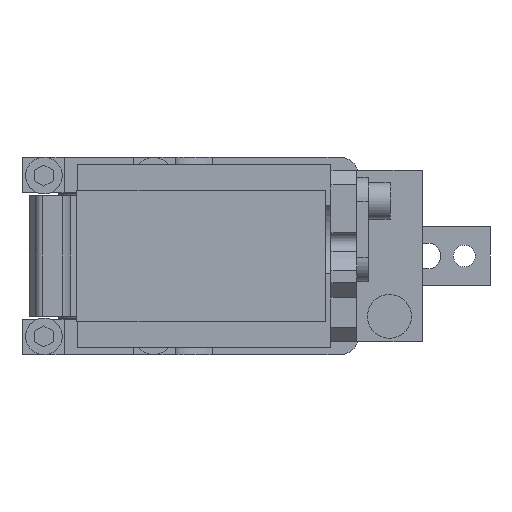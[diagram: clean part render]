
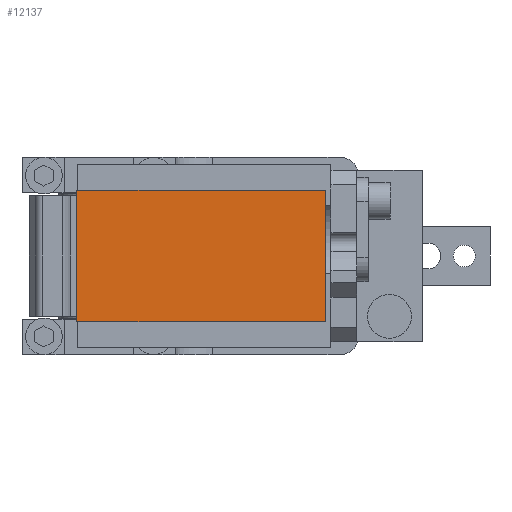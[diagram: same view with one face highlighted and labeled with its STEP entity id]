
A CAD part, front view. The second image highlights one B-rep face of the part: STEP entity #12137.
In plain terms, the highlighted planar face has unit normal (0, -1, 0).
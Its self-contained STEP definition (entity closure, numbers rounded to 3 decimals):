
#22 = CARTESIAN_POINT ( 'NONE',  ( -6., -233., 18. ) ) ;
#119 = EDGE_CURVE ( 'NONE', #9057, #1614, #10608, .T. ) ;
#1085 = ORIENTED_EDGE ( 'NONE', *, *, #4846, .T. ) ;
#1413 = CARTESIAN_POINT ( 'NONE',  ( 62., -233., 18. ) ) ;
#1614 = VERTEX_POINT ( 'NONE', #7180 ) ;
#1630 = DIRECTION ( 'NONE',  ( 0., 0., 1. ) ) ;
#2936 = AXIS2_PLACEMENT_3D ( 'NONE', #4009, #10973, #7540 ) ;
#3223 = CARTESIAN_POINT ( 'NONE',  ( -6., -233., 18. ) ) ;
#4009 = CARTESIAN_POINT ( 'NONE',  ( 0., -233., 0. ) ) ;
#4139 = CARTESIAN_POINT ( 'NONE',  ( -6., -233., 18. ) ) ;
#4846 = EDGE_CURVE ( 'NONE', #1614, #14021, #6773, .T. ) ;
#5013 = PLANE ( 'NONE',  #2936 ) ;
#5343 = ORIENTED_EDGE ( 'NONE', *, *, #6120, .T. ) ;
#6120 = EDGE_CURVE ( 'NONE', #14021, #11927, #7382, .T. ) ;
#6773 = LINE ( 'NONE', #10274, #12196 ) ;
#7180 = CARTESIAN_POINT ( 'NONE',  ( -6., -233., -18. ) ) ;
#7382 = LINE ( 'NONE', #1413, #9006 ) ;
#7402 = DIRECTION ( 'NONE',  ( 0., 0., -1. ) ) ;
#7540 = DIRECTION ( 'NONE',  ( 0., 0., -1. ) ) ;
#8009 = LINE ( 'NONE', #3223, #14051 ) ;
#8225 = ORIENTED_EDGE ( 'NONE', *, *, #11678, .T. ) ;
#9006 = VECTOR ( 'NONE', #1630, 1000. ) ;
#9057 = VERTEX_POINT ( 'NONE', #4139 ) ;
#10274 = CARTESIAN_POINT ( 'NONE',  ( -6., -233., -18. ) ) ;
#10348 = DIRECTION ( 'NONE',  ( 1., 0., 0. ) ) ;
#10608 = LINE ( 'NONE', #22, #12175 ) ;
#10973 = DIRECTION ( 'NONE',  ( 0., -1., 0. ) ) ;
#11025 = EDGE_LOOP ( 'NONE', ( #14627, #1085, #5343, #8225 ) ) ;
#11678 = EDGE_CURVE ( 'NONE', #11927, #9057, #8009, .T. ) ;
#11927 = VERTEX_POINT ( 'NONE', #13008 ) ;
#12137 = ADVANCED_FACE ( 'NONE', ( #14443 ), #5013, .T. ) ;
#12175 = VECTOR ( 'NONE', #7402, 1000. ) ;
#12196 = VECTOR ( 'NONE', #10348, 1000. ) ;
#13008 = CARTESIAN_POINT ( 'NONE',  ( 62., -233., 18. ) ) ;
#14021 = VERTEX_POINT ( 'NONE', #14324 ) ;
#14051 = VECTOR ( 'NONE', #14068, 1000. ) ;
#14068 = DIRECTION ( 'NONE',  ( -1., 0., 0. ) ) ;
#14324 = CARTESIAN_POINT ( 'NONE',  ( 62., -233., -18. ) ) ;
#14443 = FACE_OUTER_BOUND ( 'NONE', #11025, .T. ) ;
#14627 = ORIENTED_EDGE ( 'NONE', *, *, #119, .T. ) ;
